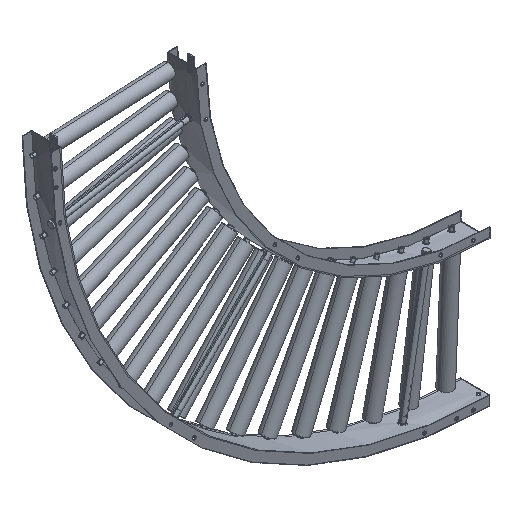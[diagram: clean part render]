
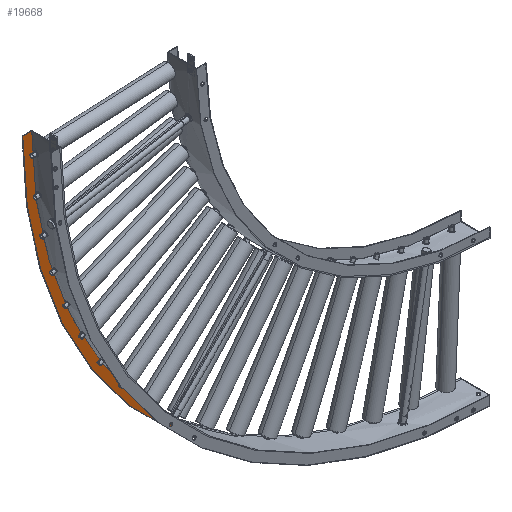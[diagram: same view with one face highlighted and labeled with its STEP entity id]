
A CAD part, isometric view. The second image highlights one B-rep face of the part: STEP entity #19668.
In plain terms, the highlighted planar face has unit normal (0, -1, 0).
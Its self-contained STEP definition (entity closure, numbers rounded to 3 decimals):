
#134 = CARTESIAN_POINT ( 'NONE',  ( 624.89, 62.899, 450. ) ) ;
#215 = AXIS2_PLACEMENT_3D ( 'NONE', #3335, #19643, #3186 ) ;
#2531 = ORIENTED_EDGE ( 'NONE', *, *, #9791, .T. ) ;
#3151 = DIRECTION ( 'NONE',  ( 1., 0., 0. ) ) ;
#3186 = DIRECTION ( 'NONE',  ( 0., 0., 1. ) ) ;
#3335 = CARTESIAN_POINT ( 'NONE',  ( 624.89, 62.899, 450. ) ) ;
#3906 = VERTEX_POINT ( 'NONE', #20226 ) ;
#3993 = VERTEX_POINT ( 'NONE', #30101 ) ;
#5649 = CIRCLE ( 'NONE', #215, 1317.3 ) ;
#6314 = CARTESIAN_POINT ( 'NONE',  ( 624.89, 62.899, -895. ) ) ;
#7201 = EDGE_LOOP ( 'NONE', ( #2531, #12403, #17733, #17622 ) ) ;
#8084 = EDGE_CURVE ( 'NONE', #3993, #28049, #15240, .T. ) ;
#9791 = EDGE_CURVE ( 'NONE', #3906, #26386, #29527, .T. ) ;
#10834 = DIRECTION ( 'NONE',  ( 0., 0., 1. ) ) ;
#12403 = ORIENTED_EDGE ( 'NONE', *, *, #23791, .T. ) ;
#12859 = CARTESIAN_POINT ( 'NONE',  ( 624.89, 62.899, -867.3 ) ) ;
#12938 = CIRCLE ( 'NONE', #16379, 1345. ) ;
#14116 = CARTESIAN_POINT ( 'NONE',  ( 624.89, 62.899, 450. ) ) ;
#14253 = DIRECTION ( 'NONE',  ( 0., 1., 0. ) ) ;
#14717 = DIRECTION ( 'NONE',  ( 0., 0., 1. ) ) ;
#15240 = LINE ( 'NONE', #22361, #22549 ) ;
#16379 = AXIS2_PLACEMENT_3D ( 'NONE', #14116, #19222, #14717 ) ;
#17622 = ORIENTED_EDGE ( 'NONE', *, *, #26057, .F. ) ;
#17733 = ORIENTED_EDGE ( 'NONE', *, *, #8084, .F. ) ;
#19222 = DIRECTION ( 'NONE',  ( 0., 1., 0. ) ) ;
#19643 = DIRECTION ( 'NONE',  ( 0., 1., 0. ) ) ;
#19668 = ADVANCED_FACE ( 'NONE', ( #24125 ), #23821, .F. ) ;
#20226 = CARTESIAN_POINT ( 'NONE',  ( 624.89, 62.899, -895. ) ) ;
#22361 = CARTESIAN_POINT ( 'NONE',  ( -720.11, 62.899, 450. ) ) ;
#22549 = VECTOR ( 'NONE', #3151, 1000. ) ;
#23791 = EDGE_CURVE ( 'NONE', #26386, #28049, #5649, .T. ) ;
#23821 = PLANE ( 'NONE',  #26787 ) ;
#24125 = FACE_OUTER_BOUND ( 'NONE', #7201, .T. ) ;
#24595 = VECTOR ( 'NONE', #10834, 1000. ) ;
#25815 = CARTESIAN_POINT ( 'NONE',  ( -692.41, 62.899, 450. ) ) ;
#26057 = EDGE_CURVE ( 'NONE', #3906, #3993, #12938, .T. ) ;
#26386 = VERTEX_POINT ( 'NONE', #12859 ) ;
#26787 = AXIS2_PLACEMENT_3D ( 'NONE', #134, #14253, #28612 ) ;
#28049 = VERTEX_POINT ( 'NONE', #25815 ) ;
#28612 = DIRECTION ( 'NONE',  ( 0., 0., 1. ) ) ;
#29527 = LINE ( 'NONE', #6314, #24595 ) ;
#30101 = CARTESIAN_POINT ( 'NONE',  ( -720.11, 62.899, 450. ) ) ;
